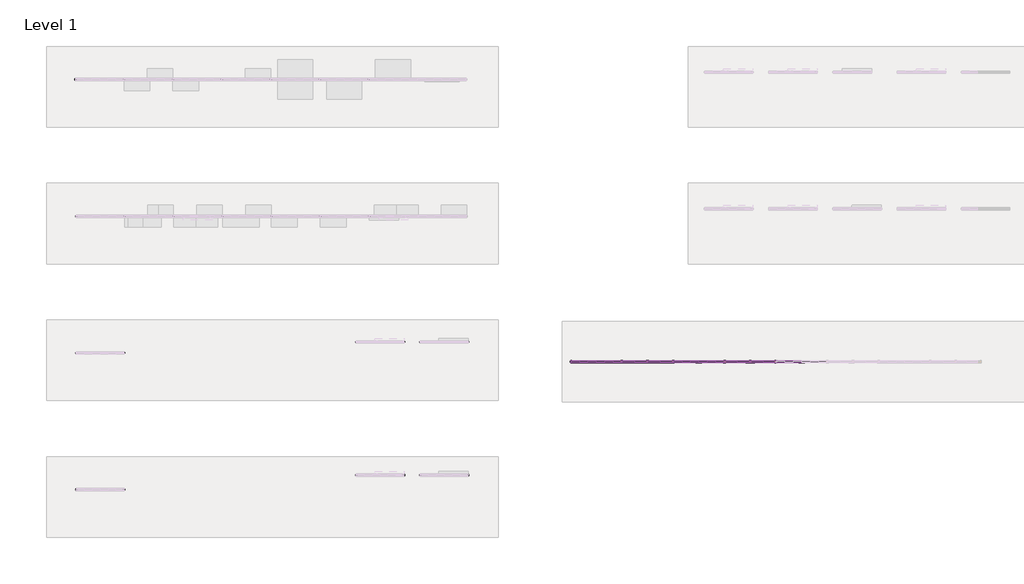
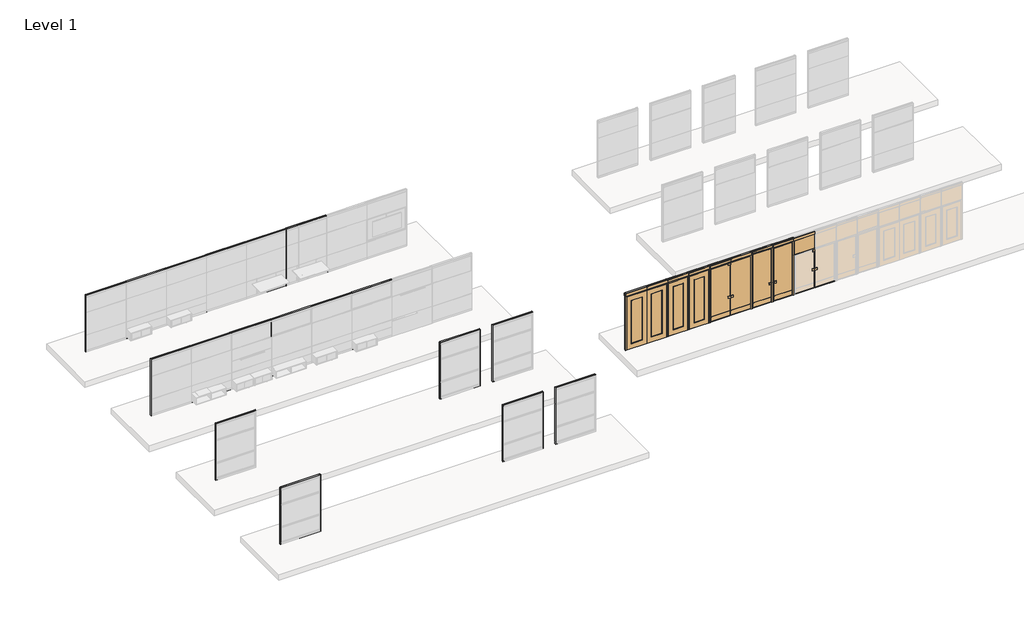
# One storey, part 1 of 13: 84 members, 39 doors.
"""IFC4 building model written with IfcOpenShell, lengths in millimetres."""

from ifc_helpers import new_model, si_unit, origin, place, context, project, spatial, transform, mapped, element, save
from components import door_bd91c697, fascia_door_teknion_ceiling_fpc_cee98132, fascia_door_teknion_ceiling_fpc_1744e75c, fascia_door_teknion_ceiling_fpc_80850e86, fascia_door_teknion_ceiling_fpc_62af43c9, fascia_door_teknion_ceiling_fpc_5a6df3e9, fascia_door_teknion_ceiling_fpc_77f6f4b8, fascia_door_teknion_ceiling_fpc_97e50246, fascia_door_teknion_ceiling_fpc_d2d9a834, fascia_door_teknion_glass_046dfec6, frame_door_teknion_full_height_double_649dfa20, frame_door_teknion_full_height_double_glass_6b4566d7, frame_door_teknion_horizontal_rail_67457fb7, frame_door_teknion_single_480e760c, frame_door_teknion_single_glass_8f8bf091, glass_door_08374f17, glass_door_056d267c, glass_double_door_e72a0660, panel_door_teknion_glass_insert_61912b7f, panel_door_teknion_glass_insert_d14ac338, panel_door_teknion_double_glass_insert_d8b20c53, panel_door_teknion_glass_glass_door_panel_5335f482, panel_door_teknion_glass_glass_door_panel_a58ef974, panel_door_teknion_glass_double_glass_double_door_panel_a0bbf17d, rectangular_mullion_3afcdd40, rectangular_mullion_f52d68d9, rectangular_mullion_044499e4, rectangular_mullion_8b23e5bd, rectangular_mullion_f0f61f1f, rectangular_mullion_7ac4b66f, rectangular_mullion_5de60da2, rectangular_mullion_eb75c081, rectangular_mullion_frame_teknion_landscape_vertical_post_05f5e206, rectangular_mullion_frame_teknion_landscape_vertical_post_5ea4eea9, rectangular_mullion_frame_teknion_landscape_vertical_post_1fa3a907

model = new_model("IFC4")

# Units and contexts
model_context = context("Model", 3, world=origin())
ifc_project = project(units=[si_unit("LENGTHUNIT", "METRE", prefix="MILLI")], contexts=[model_context])

# Site, building, storey
site = spatial("IfcSite", under=ifc_project)
building = spatial("IfcBuilding", under=site)
storey = spatial("IfcBuildingStorey", under=building, Name="Level 1", Elevation=0.0)

# Doors
placement = place(None, origin())
door_shape = door_bd91c697(model_context)
element("IfcDoor", 1, ObjectType="Door-Hinged_Glass_Segmented_Height-Teknion-Altos-Double : 84\", Double Glass Fascia", at=placement, inside=storey, context=model_context, shape_type="MappedRepresentation", body=[
    mapped(door_shape, transform((-15698.9760732, 10072.5705104, 3.175), x_axis=(1.0, 0.0, 0.0), y_axis=(0.0, 1.0, 0.0), z_axis=(0.0, 0.0, 1.0))),
])
fascia_door_teknion_ceiling_fpc_shape = fascia_door_teknion_ceiling_fpc_cee98132(model_context)
element("IfcDoor", 2, ObjectType="Fascia-Door-Teknion-Ceiling : FPC", at=placement, inside=storey, context=model_context, shape_type="MappedRepresentation", body=[
    mapped(fascia_door_teknion_ceiling_fpc_shape, transform((-18365.9760732, 10022.5336559, 2950.845), x_axis=(1.0, 0.0, 0.0), y_axis=(0.0, 1.0, 0.0), z_axis=(0.0, 0.0, 1.0))),
])
fascia_door_teknion_ceiling_fpc_2_shape = fascia_door_teknion_ceiling_fpc_1744e75c(model_context)
element("IfcDoor", 3, ObjectType="Fascia-Door-Teknion-Ceiling : FPC", at=placement, inside=storey, context=model_context, shape_type="MappedRepresentation", body=[
    mapped(fascia_door_teknion_ceiling_fpc_2_shape, transform((-18365.9760732, 10122.6096559, 2950.845), x_axis=(1.0, 0.0, 0.0), y_axis=(0.0, 1.0, 0.0), z_axis=(0.0, 0.0, 1.0))),
])
fascia_door_teknion_ceiling_fpc_3_shape = fascia_door_teknion_ceiling_fpc_80850e86(model_context)
element("IfcDoor", 4, ObjectType="Fascia-Door-Teknion-Ceiling : FPC", at=placement, inside=storey, context=model_context, shape_type="MappedRepresentation", body=[
    mapped(fascia_door_teknion_ceiling_fpc_3_shape, transform((-22633.1760732, 10022.5336559, 2900.045), x_axis=(1.0, 0.0, 0.0), y_axis=(0.0, 1.0, 0.0), z_axis=(0.0, 0.0, 1.0))),
])
element("IfcDoor", 5, ObjectType="Fascia-Door-Teknion-Ceiling : FPC", at=placement, inside=storey, context=model_context, shape_type="MappedRepresentation", body=[
    mapped(fascia_door_teknion_ceiling_fpc_3_shape, transform((-21566.3760732, 10021.7716559, 2900.045), x_axis=(1.0, 0.0, 0.0), y_axis=(0.0, 1.0, 0.0), z_axis=(0.0, 0.0, 1.0))),
])
element("IfcDoor", 6, ObjectType="Fascia-Door-Teknion-Ceiling : FPC", at=placement, inside=storey, context=model_context, shape_type="MappedRepresentation", body=[
    mapped(fascia_door_teknion_ceiling_fpc_3_shape, transform((-17299.1760732, 10022.5336559, 2900.045), x_axis=(1.0, 0.0, 0.0), y_axis=(0.0, 1.0, 0.0), z_axis=(0.0, 0.0, 1.0))),
])
fascia_door_teknion_ceiling_fpc_4_shape = fascia_door_teknion_ceiling_fpc_62af43c9(model_context)
element("IfcDoor", 7, ObjectType="Fascia-Door-Teknion-Ceiling : FPC", at=placement, inside=storey, context=model_context, shape_type="MappedRepresentation", body=[
    mapped(fascia_door_teknion_ceiling_fpc_4_shape, transform((-22633.1760732, 10122.6096559, 2900.045), x_axis=(1.0, 0.0, 0.0), y_axis=(0.0, 1.0, 0.0), z_axis=(0.0, 0.0, 1.0))),
])
element("IfcDoor", 8, ObjectType="Fascia-Door-Teknion-Ceiling : FPC", at=placement, inside=storey, context=model_context, shape_type="MappedRepresentation", body=[
    mapped(fascia_door_teknion_ceiling_fpc_4_shape, transform((-21566.3760732, 10123.3716559, 2900.045), x_axis=(1.0, 0.0, 0.0), y_axis=(0.0, 1.0, 0.0), z_axis=(0.0, 0.0, 1.0))),
])
element("IfcDoor", 9, ObjectType="Fascia-Door-Teknion-Ceiling : FPC", at=placement, inside=storey, context=model_context, shape_type="MappedRepresentation", body=[
    mapped(fascia_door_teknion_ceiling_fpc_4_shape, transform((-17299.1760732, 10122.6096559, 2900.045), x_axis=(1.0, 0.0, 0.0), y_axis=(0.0, 1.0, 0.0), z_axis=(0.0, 0.0, 1.0))),
])
fascia_door_teknion_ceiling_fpc_5_shape = fascia_door_teknion_ceiling_fpc_5a6df3e9(model_context)
element("IfcDoor", 10, ObjectType="Fascia-Door-Teknion-Ceiling : FPC", at=placement, inside=storey, context=model_context, shape_type="MappedRepresentation", body=[
    mapped(fascia_door_teknion_ceiling_fpc_5_shape, transform((-23689.1860341, 10122.6096559, 2900.045), x_axis=(1.0, 0.0, 0.0), y_axis=(0.0, 1.0, 0.0), z_axis=(0.0, 0.0, 1.0))),
])
element("IfcDoor", 11, ObjectType="Fascia-Door-Teknion-Ceiling : FPC", at=placement, inside=storey, context=model_context, shape_type="MappedRepresentation", body=[
    mapped(fascia_door_teknion_ceiling_fpc_5_shape, transform((-24763.5762685, 10122.6096559, 2900.045), x_axis=(1.0, 0.0, 0.0), y_axis=(0.0, 1.0, 0.0), z_axis=(0.0, 0.0, 1.0))),
])
fascia_door_teknion_ceiling_fpc_6_shape = fascia_door_teknion_ceiling_fpc_77f6f4b8(model_context)
element("IfcDoor", 12, ObjectType="Fascia-Door-Teknion-Ceiling : FPC", at=placement, inside=storey, context=model_context, shape_type="MappedRepresentation", body=[
    mapped(fascia_door_teknion_ceiling_fpc_6_shape, transform((-23689.1860341, 10022.5336559, 2900.045), x_axis=(1.0, 0.0, 0.0), y_axis=(0.0, 1.0, 0.0), z_axis=(0.0, 0.0, 1.0))),
])
element("IfcDoor", 13, ObjectType="Fascia-Door-Teknion-Ceiling : FPC", at=placement, inside=storey, context=model_context, shape_type="MappedRepresentation", body=[
    mapped(fascia_door_teknion_ceiling_fpc_6_shape, transform((-24763.5762685, 10022.5336559, 2900.045), x_axis=(1.0, 0.0, 0.0), y_axis=(0.0, 1.0, 0.0), z_axis=(0.0, 0.0, 1.0))),
])
fascia_door_teknion_ceiling_fpc_7_shape = fascia_door_teknion_ceiling_fpc_97e50246(model_context)
element("IfcDoor", 14, ObjectType="Fascia-Door-Teknion-Ceiling : FPC", at=placement, inside=storey, context=model_context, shape_type="MappedRepresentation", body=[
    mapped(fascia_door_teknion_ceiling_fpc_7_shape, transform((-19425.483495, 10122.6096559, 2900.045), x_axis=(1.0, 0.0, 0.0), y_axis=(0.0, 1.0, 0.0), z_axis=(0.0, 0.0, 1.0))),
])
element("IfcDoor", 15, ObjectType="Fascia-Door-Teknion-Ceiling : FPC", at=placement, inside=storey, context=model_context, shape_type="MappedRepresentation", body=[
    mapped(fascia_door_teknion_ceiling_fpc_7_shape, transform((-20506.8686513, 10122.6096559, 2900.045), x_axis=(1.0, 0.0, 0.0), y_axis=(0.0, 1.0, 0.0), z_axis=(0.0, 0.0, 1.0))),
])
element("IfcDoor", 16, ObjectType="Fascia-Door-Teknion-Ceiling : FPC", at=placement, inside=storey, context=model_context, shape_type="MappedRepresentation", body=[
    mapped(fascia_door_teknion_ceiling_fpc_7_shape, transform((-16239.6686513, 10123.3716559, 2900.045), x_axis=(1.0, 0.0, 0.0), y_axis=(0.0, 1.0, 0.0), z_axis=(0.0, 0.0, 1.0))),
])
fascia_door_teknion_ceiling_fpc_8_shape = fascia_door_teknion_ceiling_fpc_d2d9a834(model_context)
element("IfcDoor", 17, ObjectType="Fascia-Door-Teknion-Ceiling : FPC", at=placement, inside=storey, context=model_context, shape_type="MappedRepresentation", body=[
    mapped(fascia_door_teknion_ceiling_fpc_8_shape, transform((-19425.483495, 10022.5336559, 2900.045), x_axis=(1.0, 0.0, 0.0), y_axis=(0.0, 1.0, 0.0), z_axis=(0.0, 0.0, 1.0))),
])
element("IfcDoor", 18, ObjectType="Fascia-Door-Teknion-Ceiling : FPC", at=placement, inside=storey, context=model_context, shape_type="MappedRepresentation", body=[
    mapped(fascia_door_teknion_ceiling_fpc_8_shape, transform((-20506.8686513, 10022.5336559, 2900.045), x_axis=(1.0, 0.0, 0.0), y_axis=(0.0, 1.0, 0.0), z_axis=(0.0, 0.0, 1.0))),
])
element("IfcDoor", 19, ObjectType="Fascia-Door-Teknion-Ceiling : FPC", at=placement, inside=storey, context=model_context, shape_type="MappedRepresentation", body=[
    mapped(fascia_door_teknion_ceiling_fpc_8_shape, transform((-16239.6686513, 10021.7716559, 2900.045), x_axis=(1.0, 0.0, 0.0), y_axis=(0.0, 1.0, 0.0), z_axis=(0.0, 0.0, 1.0))),
])
fascia_door_teknion_glass_shape = fascia_door_teknion_glass_046dfec6(model_context)
element("IfcDoor", 20, ObjectType="Fascia-Door-Teknion-Glass : FPGD", at=placement, inside=storey, context=model_context, shape_type="MappedRepresentation", body=[
    mapped(fascia_door_teknion_glass_shape, transform((-16232.3811512, 10072.5716559, 2139.95), x_axis=(1.0, 0.0, 0.0), y_axis=(0.0, 1.0, 0.0), z_axis=(0.0, 0.0, 1.0))),
])
frame_door_teknion_full_height_double_shape = frame_door_teknion_full_height_double_649dfa20(model_context)
element("IfcDoor", 21, ObjectType="Frame-Door-Teknion-Full_Height_Double : FPFDS", at=placement, inside=storey, context=model_context, shape_type="MappedRepresentation", body=[
    mapped(frame_door_teknion_full_height_double_shape, transform((-24226.3811513, 10072.5716559, 3.175), x_axis=(1.0, 0.0, 0.0), y_axis=(0.0, 1.0, 0.0), z_axis=(0.0, 0.0, 1.0))),
])
frame_door_teknion_full_height_double_glass_shape = frame_door_teknion_full_height_double_glass_6b4566d7(model_context)
element("IfcDoor", 22, ObjectType="Frame-Door-Teknion-Full_Height_Double-Glass : FPFJS", at=placement, inside=storey, context=model_context, shape_type="MappedRepresentation", body=[
    mapped(frame_door_teknion_full_height_double_glass_shape, transform((-19966.1760732, 10072.5716559, 3.175), x_axis=(1.0, 0.0, 0.0), y_axis=(0.0, 1.0, 0.0), z_axis=(0.0, 0.0, 1.0))),
])
frame_door_teknion_horizontal_rail_shape = frame_door_teknion_horizontal_rail_67457fb7(model_context)
element("IfcDoor", 23, ObjectType="Frame-Door-Teknion-Horizontal_Rail : FPKK", at=placement, inside=storey, context=model_context, shape_type="MappedRepresentation", body=[
    mapped(frame_door_teknion_horizontal_rail_shape, transform((-22633.1760732, 10072.5716559, 2896.87), x_axis=(1.0, 0.0, 0.0), y_axis=(0.0, 1.0, 0.0), z_axis=(0.0, 0.0, 1.0))),
])
element("IfcDoor", 24, ObjectType="Frame-Door-Teknion-Horizontal_Rail : FPKK", at=placement, inside=storey, context=model_context, shape_type="MappedRepresentation", body=[
    mapped(frame_door_teknion_horizontal_rail_shape, transform((-21566.3760732, 10072.5716559, 2896.87), x_axis=(1.0, 0.0, 0.0), y_axis=(0.0, 1.0, 0.0), z_axis=(0.0, 0.0, 1.0))),
])
element("IfcDoor", 25, ObjectType="Frame-Door-Teknion-Horizontal_Rail : FPKK", at=placement, inside=storey, context=model_context, shape_type="MappedRepresentation", body=[
    mapped(frame_door_teknion_horizontal_rail_shape, transform((-18365.9760732, 10072.5716559, 2947.67), x_axis=(1.0, 0.0, 0.0), y_axis=(0.0, 1.0, 0.0), z_axis=(0.0, 0.0, 1.0))),
])
element("IfcDoor", 26, ObjectType="Frame-Door-Teknion-Horizontal_Rail : FPKK", at=placement, inside=storey, context=model_context, shape_type="MappedRepresentation", body=[
    mapped(frame_door_teknion_horizontal_rail_shape, transform((-17299.1760732, 10072.5716559, 2896.87), x_axis=(1.0, 0.0, 0.0), y_axis=(0.0, 1.0, 0.0), z_axis=(0.0, 0.0, 1.0))),
])
frame_door_teknion_single_shape = frame_door_teknion_single_480e760c(model_context)
element("IfcDoor", 27, ObjectType="Frame-Door-Teknion-Single : FPFHS", at=placement, inside=storey, context=model_context, shape_type="MappedRepresentation", body=[
    mapped(frame_door_teknion_single_shape, transform((-22633.1760732, 10072.5716559, 3.175), x_axis=(1.0, 0.0, 0.0), y_axis=(0.0, 1.0, 0.0), z_axis=(0.0, 0.0, 1.0))),
])
element("IfcDoor", 28, ObjectType="Frame-Door-Teknion-Single : FPFHS", at=placement, inside=storey, context=model_context, shape_type="MappedRepresentation", body=[
    mapped(frame_door_teknion_single_shape, transform((-21566.3760732, 10072.5716559, 3.175), x_axis=(1.0, 0.0, 0.0), y_axis=(0.0, 1.0, 0.0), z_axis=(0.0, 0.0, 1.0))),
])
frame_door_teknion_single_glass_shape = frame_door_teknion_single_glass_8f8bf091(model_context)
element("IfcDoor", 29, ObjectType="Frame-Door-Teknion-Single-Glass : FPFJS", at=placement, inside=storey, context=model_context, shape_type="MappedRepresentation", body=[
    mapped(frame_door_teknion_single_glass_shape, transform((-18365.9760732, 10072.5716559, 3.175), x_axis=(1.0, 0.0, 0.0), y_axis=(0.0, 1.0, 0.0), z_axis=(0.0, 0.0, 1.0))),
])
element("IfcDoor", 30, ObjectType="Frame-Door-Teknion-Single-Glass : FPFJS", at=placement, inside=storey, context=model_context, shape_type="MappedRepresentation", body=[
    mapped(frame_door_teknion_single_shape, transform((-17299.1760732, 10072.5716559, 3.175), x_axis=(1.0, 0.0, 0.0), y_axis=(0.0, 1.0, 0.0), z_axis=(0.0, 0.0, 1.0))),
])
glass_door_shape = glass_door_08374f17(model_context)
element("IfcDoor", 31, ObjectType="Door-Hinged_Glass_Full_Height-Teknion-Altos-Left_Swing : Glass Door", at=placement, inside=storey, context=model_context, shape_type="MappedRepresentation", body=[
    mapped(glass_door_shape, transform((-18365.9760732, 10072.5705104, 3.175), x_axis=(1.0, 0.0, 0.0), y_axis=(0.0, 1.0, 0.0), z_axis=(0.0, 0.0, 1.0))),
])
glass_door_2_shape = glass_door_056d267c(model_context)
element("IfcDoor", 32, ObjectType="Door-Hinged_Glass_Full_Height-Teknion-Altos-Right_Swing : Glass Door", at=placement, inside=storey, context=model_context, shape_type="MappedRepresentation", body=[
    mapped(glass_door_2_shape, transform((-17299.1760732, 10072.5705104, 3.175), x_axis=(1.0, 0.0, 0.0), y_axis=(0.0, 1.0, 0.0), z_axis=(0.0, 0.0, 1.0))),
])
glass_double_door_shape = glass_double_door_e72a0660(model_context)
element("IfcDoor", 33, ObjectType="Door-Hinged_Glass_Full_Height-Teknion-Altos-Double : Glass Double Door", at=placement, inside=storey, context=model_context, shape_type="MappedRepresentation", body=[
    mapped(glass_double_door_shape, transform((-19966.1760732, 10072.5705104, 3.175), x_axis=(1.0, 0.0, 0.0), y_axis=(0.0, 1.0, 0.0), z_axis=(0.0, 0.0, 1.0))),
])
panel_door_teknion_glass_insert_shape = panel_door_teknion_glass_insert_61912b7f(model_context)
element("IfcDoor", 34, ObjectType="Panel-Door-Teknion : Glass Insert", at=placement, inside=storey, context=model_context, shape_type="MappedRepresentation", body=[
    mapped(panel_door_teknion_glass_insert_shape, transform((-22634.1186735, 10044.7586559, 3.175), x_axis=(1.0, 0.0, 0.0), y_axis=(0.0, 1.0, 0.0), z_axis=(0.0, 0.0, 1.0))),
])
panel_door_teknion_glass_insert_2_shape = panel_door_teknion_glass_insert_d14ac338(model_context)
element("IfcDoor", 35, ObjectType="Panel-Door-Teknion : Glass Insert", at=placement, inside=storey, context=model_context, shape_type="MappedRepresentation", body=[
    mapped(panel_door_teknion_glass_insert_2_shape, transform((-21565.3600732, 10043.9966559, 3.175), x_axis=(-1.0, 0.0, 0.0), y_axis=(0.0, -1.0, 0.0), z_axis=(0.0, 0.0, 1.0))),
])
panel_door_teknion_double_glass_insert_shape = panel_door_teknion_double_glass_insert_d8b20c53(model_context)
element("IfcDoor", 36, ObjectType="Panel-Door-Teknion-Double : Glass Insert", at=placement, inside=storey, context=model_context, shape_type="MappedRepresentation", body=[
    mapped(panel_door_teknion_double_glass_insert_shape, transform((-24717.2262516, 10044.7586559, 3.175), x_axis=(1.0, 0.0, 0.0), y_axis=(0.0, 1.0, 0.0), z_axis=(0.0, 0.0, 1.0))),
])
panel_door_teknion_glass_glass_door_panel_shape = panel_door_teknion_glass_glass_door_panel_5335f482(model_context)
element("IfcDoor", 37, ObjectType="Panel-Door-Teknion-Glass : Glass Door Panel", at=placement, inside=storey, context=model_context, shape_type="MappedRepresentation", body=[
    mapped(panel_door_teknion_glass_glass_door_panel_shape, transform((-18365.4868003, 10065.4499211, 3.175), x_axis=(1.0, 0.0, 0.0), y_axis=(0.0, 1.0, 0.0), z_axis=(0.0, 0.0, 1.0))),
])
panel_door_teknion_glass_glass_door_panel_2_shape = panel_door_teknion_glass_glass_door_panel_a58ef974(model_context)
element("IfcDoor", 38, ObjectType="Panel-Door-Teknion-Glass : Glass Door Panel", at=placement, inside=storey, context=model_context, shape_type="MappedRepresentation", body=[
    mapped(panel_door_teknion_glass_glass_door_panel_2_shape, transform((-17299.6713732, 10065.4499211, 3.175), x_axis=(-1.0, 0.0, 0.0), y_axis=(0.0, -1.0, 0.0), z_axis=(0.0, 0.0, 1.0))),
])
panel_door_teknion_glass_double_glass_double_door_panel_shape = panel_door_teknion_glass_double_glass_double_door_panel_a0bbf17d(model_context)
element("IfcDoor", 39, ObjectType="Panel-Door-Teknion-Glass-Double : Glass Double Door Panel", at=placement, inside=storey, context=model_context, shape_type="MappedRepresentation", body=[
    mapped(panel_door_teknion_glass_double_glass_double_door_panel_shape, transform((-19991.5760732, 10065.4469559, 3.175), x_axis=(1.0, 0.0, 0.0), y_axis=(0.0, 1.0, 0.0), z_axis=(0.0, 0.0, 1.0))),
])

# Members
rectangular_mullion_shape = rectangular_mullion_3afcdd40(model_context)
element("IfcMember", 40, ObjectType="Rectangular Mullion : Frame-Teknion-Altos-Base_Channel", at=placement, inside=storey, context=model_context, shape_type="MappedRepresentation", body=[
    mapped(rectangular_mullion_shape, transform((-23152.5862294, 10072.5705104, 0.0), x_axis=(0.0, 0.0, -1.0), y_axis=(0.0, -1.0, 0.0), z_axis=(-1.0, 0.0, 0.0))),
])
element("IfcMember", 41, ObjectType="Rectangular Mullion : Frame-Teknion-Altos-Base_Channel", at=placement, inside=storey, context=model_context, shape_type="MappedRepresentation", body=[
    mapped(rectangular_mullion_shape, transform((-22085.7862294, 10072.5705104, 0.0), x_axis=(0.0, 0.0, -1.0), y_axis=(0.0, -1.0, 0.0), z_axis=(-1.0, 0.0, 0.0))),
])
element("IfcMember", 42, ObjectType="Rectangular Mullion : Frame-Teknion-Altos-Base_Channel", at=placement, inside=storey, context=model_context, shape_type="MappedRepresentation", body=[
    mapped(rectangular_mullion_shape, transform((-18885.3862294, 10072.5705104, 0.0), x_axis=(0.0, 0.0, -1.0), y_axis=(0.0, -1.0, 0.0), z_axis=(-1.0, 0.0, 0.0))),
])
element("IfcMember", 43, ObjectType="Rectangular Mullion : Frame-Teknion-Altos-Base_Channel", at=placement, inside=storey, context=model_context, shape_type="MappedRepresentation", body=[
    mapped(rectangular_mullion_shape, transform((-17818.5862294, 10072.5705104, 0.0), x_axis=(0.0, 0.0, -1.0), y_axis=(0.0, -1.0, 0.0), z_axis=(-1.0, 0.0, 0.0))),
])
element("IfcMember", 44, ObjectType="Rectangular Mullion : Frame-Teknion-Altos-Ceiling_Channel", at=placement, inside=storey, context=model_context, shape_type="MappedRepresentation", body=[
    mapped(rectangular_mullion_shape, transform((-22113.7659169, 10072.5705104, 3048.0), x_axis=(0.0, 0.0, 1.0), y_axis=(0.0, -1.0, 0.0), z_axis=(1.0, 0.0, 0.0))),
])
element("IfcMember", 45, ObjectType="Rectangular Mullion : Frame-Teknion-Altos-Ceiling_Channel", at=placement, inside=storey, context=model_context, shape_type="MappedRepresentation", body=[
    mapped(rectangular_mullion_shape, transform((-21046.9659169, 10072.5705104, 3048.0), x_axis=(0.0, 0.0, 1.0), y_axis=(0.0, -1.0, 0.0), z_axis=(1.0, 0.0, 0.0))),
])
element("IfcMember", 46, ObjectType="Rectangular Mullion : Frame-Teknion-Altos-Ceiling_Channel", at=placement, inside=storey, context=model_context, shape_type="MappedRepresentation", body=[
    mapped(rectangular_mullion_shape, transform((-17846.5659169, 10072.5705104, 3048.0), x_axis=(0.0, 0.0, 1.0), y_axis=(0.0, -1.0, 0.0), z_axis=(1.0, 0.0, 0.0))),
])
element("IfcMember", 47, ObjectType="Rectangular Mullion : Frame-Teknion-Altos-Ceiling_Channel", at=placement, inside=storey, context=model_context, shape_type="MappedRepresentation", body=[
    mapped(rectangular_mullion_shape, transform((-16779.7659169, 10072.5705104, 3048.0), x_axis=(0.0, 0.0, 1.0), y_axis=(0.0, -1.0, 0.0), z_axis=(1.0, 0.0, 0.0))),
])
rectangular_mullion_2_shape = rectangular_mullion_f52d68d9(model_context)
element("IfcMember", 48, ObjectType="Rectangular Mullion : Frame-Teknion-Altos-Ceiling_Channel", at=placement, inside=storey, context=model_context, shape_type="MappedRepresentation", body=[
    mapped(rectangular_mullion_2_shape, transform((-23180.5659169, 10072.5705104, 3048.0), x_axis=(0.0, 0.0, 1.0), y_axis=(0.0, -1.0, 0.0), z_axis=(1.0, 0.0, 0.0))),
])
rectangular_mullion_3_shape = rectangular_mullion_044499e4(model_context)
element("IfcMember", 49, ObjectType="Rectangular Mullion : Frame-Teknion-Altos-Ceiling_Channel", at=placement, inside=storey, context=model_context, shape_type="MappedRepresentation", body=[
    mapped(rectangular_mullion_3_shape, transform((-18913.3659169, 10072.5705104, 3048.0), x_axis=(0.0, 0.0, 1.0), y_axis=(0.0, -1.0, 0.0), z_axis=(1.0, 0.0, 0.0))),
])
rectangular_mullion_4_shape = rectangular_mullion_8b23e5bd(model_context)
element("IfcMember", 50, ObjectType="Rectangular Mullion : Frame-Teknion-Altos-Base_Channel", at=placement, inside=storey, context=model_context, shape_type="MappedRepresentation", body=[
    mapped(rectangular_mullion_4_shape, transform((-25272.1963857, 10072.5705104, 0.0), x_axis=(0.0, 0.0, -1.0), y_axis=(0.0, -1.0, 0.0), z_axis=(-1.0, 0.0, 0.0))),
])
element("IfcMember", 51, ObjectType="Rectangular Mullion : Frame-Teknion-Altos-Base_Channel", at=placement, inside=storey, context=model_context, shape_type="MappedRepresentation", body=[
    mapped(rectangular_mullion_3_shape, transform((-21018.9862294, 10072.5705104, 0.0), x_axis=(0.0, 0.0, -1.0), y_axis=(0.0, -1.0, 0.0), z_axis=(-1.0, 0.0, 0.0))),
])
element("IfcMember", 52, ObjectType="Rectangular Mullion : Frame-Teknion-Altos-Base_Channel", at=placement, inside=storey, context=model_context, shape_type="MappedRepresentation", body=[
    mapped(rectangular_mullion_3_shape, transform((-16751.7862294, 10072.5705104, 0.0), x_axis=(0.0, 0.0, -1.0), y_axis=(0.0, -1.0, 0.0), z_axis=(-1.0, 0.0, 0.0))),
])
rectangular_mullion_5_shape = rectangular_mullion_f0f61f1f(model_context)
element("IfcMember", 53, ObjectType="Rectangular Mullion : Frame-Teknion-Altos-Ceiling_Channel", at=placement, inside=storey, context=model_context, shape_type="MappedRepresentation", body=[
    mapped(rectangular_mullion_5_shape, transform((-43840.4866147, 10439.2043277, 3048.0), x_axis=(0.0, 0.0, 1.0), y_axis=(0.0, -1.0, 0.0), z_axis=(1.0, 0.0, 0.0))),
])
element("IfcMember", 54, ObjectType="Rectangular Mullion : Frame-Teknion-Altos-Ceiling_Channel", at=placement, inside=storey, context=model_context, shape_type="MappedRepresentation", body=[
    mapped(rectangular_mullion_5_shape, transform((-43840.4866147, 4757.4783277, 3048.0), x_axis=(0.0, 0.0, 1.0), y_axis=(0.0, -1.0, 0.0), z_axis=(1.0, 0.0, 0.0))),
])
element("IfcMember", 55, ObjectType="Rectangular Mullion : Frame-Teknion-Altos-Ceiling_Channel", at=placement, inside=storey, context=model_context, shape_type="MappedRepresentation", body=[
    mapped(rectangular_mullion_5_shape, transform((-32216.145849, 10896.4043277, 3048.0), x_axis=(0.0, 0.0, 1.0), y_axis=(0.0, -1.0, 0.0), z_axis=(1.0, 0.0, 0.0))),
])
element("IfcMember", 56, ObjectType="Rectangular Mullion : Frame-Teknion-Altos-Ceiling_Channel", at=placement, inside=storey, context=model_context, shape_type="MappedRepresentation", body=[
    mapped(rectangular_mullion_5_shape, transform((-29549.145849, 10896.4043277, 3048.0), x_axis=(0.0, 0.0, 1.0), y_axis=(0.0, -1.0, 0.0), z_axis=(1.0, 0.0, 0.0))),
])
element("IfcMember", 57, ObjectType="Rectangular Mullion : Frame-Teknion-Altos-Ceiling_Channel", at=placement, inside=storey, context=model_context, shape_type="MappedRepresentation", body=[
    mapped(rectangular_mullion_5_shape, transform((-32216.145849, 5367.0783277, 3048.0), x_axis=(0.0, 0.0, 1.0), y_axis=(0.0, -1.0, 0.0), z_axis=(1.0, 0.0, 0.0))),
])
element("IfcMember", 58, ObjectType="Rectangular Mullion : Frame-Teknion-Altos-Ceiling_Channel", at=placement, inside=storey, context=model_context, shape_type="MappedRepresentation", body=[
    mapped(rectangular_mullion_5_shape, transform((-29549.145849, 5367.0783277, 3048.0), x_axis=(0.0, 0.0, 1.0), y_axis=(0.0, -1.0, 0.0), z_axis=(1.0, 0.0, 0.0))),
])
element("IfcMember", 59, ObjectType="Rectangular Mullion : Frame-Teknion-Altos-Base_Channel", at=placement, inside=storey, context=model_context, shape_type="MappedRepresentation", body=[
    mapped(rectangular_mullion_5_shape, transform((-45816.5272397, 10439.2043277, 0.0), x_axis=(0.0, 0.0, -1.0), y_axis=(0.0, -1.0, 0.0), z_axis=(-1.0, 0.0, 0.0))),
])
element("IfcMember", 60, ObjectType="Rectangular Mullion : Frame-Teknion-Altos-Base_Channel", at=placement, inside=storey, context=model_context, shape_type="MappedRepresentation", body=[
    mapped(rectangular_mullion_5_shape, transform((-45816.5272397, 4757.4783277, 0.0), x_axis=(0.0, 0.0, -1.0), y_axis=(0.0, -1.0, 0.0), z_axis=(-1.0, 0.0, 0.0))),
])
element("IfcMember", 61, ObjectType="Rectangular Mullion : Frame-Teknion-Altos-Base_Channel", at=placement, inside=storey, context=model_context, shape_type="MappedRepresentation", body=[
    mapped(rectangular_mullion_5_shape, transform((-34192.186474, 10896.4043277, 0.0), x_axis=(0.0, 0.0, -1.0), y_axis=(0.0, -1.0, 0.0), z_axis=(-1.0, 0.0, 0.0))),
])
element("IfcMember", 62, ObjectType="Rectangular Mullion : Frame-Teknion-Altos-Base_Channel", at=placement, inside=storey, context=model_context, shape_type="MappedRepresentation", body=[
    mapped(rectangular_mullion_5_shape, transform((-31525.186474, 10896.4043277, 0.0), x_axis=(0.0, 0.0, -1.0), y_axis=(0.0, -1.0, 0.0), z_axis=(-1.0, 0.0, 0.0))),
])
element("IfcMember", 63, ObjectType="Rectangular Mullion : Frame-Teknion-Altos-Base_Channel", at=placement, inside=storey, context=model_context, shape_type="MappedRepresentation", body=[
    mapped(rectangular_mullion_5_shape, transform((-34192.186474, 5367.0783277, 0.0), x_axis=(0.0, 0.0, -1.0), y_axis=(0.0, -1.0, 0.0), z_axis=(-1.0, 0.0, 0.0))),
])
element("IfcMember", 64, ObjectType="Rectangular Mullion : Frame-Teknion-Altos-Base_Channel", at=placement, inside=storey, context=model_context, shape_type="MappedRepresentation", body=[
    mapped(rectangular_mullion_5_shape, transform((-31525.186474, 5367.0783277, 0.0), x_axis=(0.0, 0.0, -1.0), y_axis=(0.0, -1.0, 0.0), z_axis=(-1.0, 0.0, 0.0))),
])
rectangular_mullion_6_shape = rectangular_mullion_7ac4b66f(model_context)
element("IfcMember", 65, ObjectType="Rectangular Mullion : Frame-Teknion-Altos-Base_Channel", at=placement, inside=storey, context=model_context, shape_type="MappedRepresentation", body=[
    mapped(rectangular_mullion_6_shape, transform((-45841.9272397, 21802.4569796, 0.0), x_axis=(0.0, 0.0, -1.0), y_axis=(0.0, -1.0, 0.0), z_axis=(-1.0, 0.0, 0.0))),
])
element("IfcMember", 66, ObjectType="Rectangular Mullion : Frame-Teknion-Altos-Base_Channel", at=placement, inside=storey, context=model_context, shape_type="MappedRepresentation", body=[
    mapped(rectangular_mullion_6_shape, transform((-45816.5272397, 16120.7309796, 0.0), x_axis=(0.0, 0.0, -1.0), y_axis=(0.0, -1.0, 0.0), z_axis=(-1.0, 0.0, 0.0))),
])
rectangular_mullion_7_shape = rectangular_mullion_5de60da2(model_context)
element("IfcMember", 67, ObjectType="Rectangular Mullion : Frame-Teknion-Altos-Ceiling_Channel", at=placement, inside=storey, context=model_context, shape_type="MappedRepresentation", body=[
    mapped(rectangular_mullion_7_shape, transform((-43851.8967709, 21802.4569796, 3048.0), x_axis=(0.0, 0.0, 1.0), y_axis=(0.0, -1.0, 0.0), z_axis=(1.0, 0.0, 0.0))),
])
element("IfcMember", 68, ObjectType="Rectangular Mullion : Frame-Teknion-Altos-Ceiling_Channel", at=placement, inside=storey, context=model_context, shape_type="MappedRepresentation", body=[
    mapped(rectangular_mullion_7_shape, transform((-43826.4967709, 16120.7309796, 3048.0), x_axis=(0.0, 0.0, 1.0), y_axis=(0.0, -1.0, 0.0), z_axis=(1.0, 0.0, 0.0))),
])
rectangular_mullion_8_shape = rectangular_mullion_eb75c081(model_context)
element("IfcMember", 69, ObjectType="Rectangular Mullion : Frame-Teknion-Altos-Ceiling_Channel", at=placement, inside=storey, context=model_context, shape_type="MappedRepresentation", body=[
    mapped(rectangular_mullion_8_shape, transform((-41819.8967709, 21802.4569796, 3048.0), x_axis=(0.0, 0.0, 1.0), y_axis=(0.0, -1.0, 0.0), z_axis=(1.0, 0.0, 0.0))),
])
element("IfcMember", 70, ObjectType="Rectangular Mullion : Frame-Teknion-Altos-Ceiling_Channel", at=placement, inside=storey, context=model_context, shape_type="MappedRepresentation", body=[
    mapped(rectangular_mullion_8_shape, transform((-39787.8967709, 21802.4569796, 3048.0), x_axis=(0.0, 0.0, 1.0), y_axis=(0.0, -1.0, 0.0), z_axis=(1.0, 0.0, 0.0))),
])
element("IfcMember", 71, ObjectType="Rectangular Mullion : Frame-Teknion-Altos-Ceiling_Channel", at=placement, inside=storey, context=model_context, shape_type="MappedRepresentation", body=[
    mapped(rectangular_mullion_8_shape, transform((-37755.8967709, 21802.4569796, 3048.0), x_axis=(0.0, 0.0, 1.0), y_axis=(0.0, -1.0, 0.0), z_axis=(1.0, 0.0, 0.0))),
])
element("IfcMember", 72, ObjectType="Rectangular Mullion : Frame-Teknion-Altos-Ceiling_Channel", at=placement, inside=storey, context=model_context, shape_type="MappedRepresentation", body=[
    mapped(rectangular_mullion_8_shape, transform((-41794.4967709, 16120.7309796, 3048.0), x_axis=(0.0, 0.0, 1.0), y_axis=(0.0, -1.0, 0.0), z_axis=(1.0, 0.0, 0.0))),
])
element("IfcMember", 73, ObjectType="Rectangular Mullion : Frame-Teknion-Altos-Ceiling_Channel", at=placement, inside=storey, context=model_context, shape_type="MappedRepresentation", body=[
    mapped(rectangular_mullion_8_shape, transform((-37730.4967709, 16120.7309796, 3048.0), x_axis=(0.0, 0.0, 1.0), y_axis=(0.0, -1.0, 0.0), z_axis=(1.0, 0.0, 0.0))),
])
element("IfcMember", 74, ObjectType="Rectangular Mullion : Frame-Teknion-Altos-Ceiling_Channel", at=placement, inside=storey, context=model_context, shape_type="MappedRepresentation", body=[
    mapped(rectangular_mullion_8_shape, transform((-35698.4967709, 16120.7309796, 3048.0), x_axis=(0.0, 0.0, 1.0), y_axis=(0.0, -1.0, 0.0), z_axis=(1.0, 0.0, 0.0))),
])
element("IfcMember", 75, ObjectType="Rectangular Mullion : Frame-Teknion-Altos-Ceiling_Channel", at=placement, inside=storey, context=model_context, shape_type="MappedRepresentation", body=[
    mapped(rectangular_mullion_8_shape, transform((-33666.4967709, 16120.7309796, 3048.0), x_axis=(0.0, 0.0, 1.0), y_axis=(0.0, -1.0, 0.0), z_axis=(1.0, 0.0, 0.0))),
])
element("IfcMember", 76, ObjectType="Rectangular Mullion : Frame-Teknion-Altos-Ceiling_Channel", at=placement, inside=storey, context=model_context, shape_type="MappedRepresentation", body=[
    mapped(rectangular_mullion_8_shape, transform((-35723.8967709, 21802.4569796, 3048.0), x_axis=(0.0, 0.0, 1.0), y_axis=(0.0, -1.0, 0.0), z_axis=(1.0, 0.0, 0.0))),
])
element("IfcMember", 77, ObjectType="Rectangular Mullion : Frame-Teknion-Altos-Ceiling_Channel", at=placement, inside=storey, context=model_context, shape_type="MappedRepresentation", body=[
    mapped(rectangular_mullion_8_shape, transform((-33691.8967709, 21802.4569796, 3048.0), x_axis=(0.0, 0.0, 1.0), y_axis=(0.0, -1.0, 0.0), z_axis=(1.0, 0.0, 0.0))),
])
element("IfcMember", 78, ObjectType="Rectangular Mullion : Frame-Teknion-Altos-Ceiling_Channel", at=placement, inside=storey, context=model_context, shape_type="MappedRepresentation", body=[
    mapped(rectangular_mullion_8_shape, transform((-39762.4967709, 16120.7309796, 3048.0), x_axis=(0.0, 0.0, 1.0), y_axis=(0.0, -1.0, 0.0), z_axis=(1.0, 0.0, 0.0))),
])
element("IfcMember", 79, ObjectType="Rectangular Mullion : Frame-Teknion-Altos-Base_Channel", at=placement, inside=storey, context=model_context, shape_type="MappedRepresentation", body=[
    mapped(rectangular_mullion_8_shape, transform((-43823.9170834, 21802.4569796, 0.0), x_axis=(0.0, 0.0, -1.0), y_axis=(0.0, -1.0, 0.0), z_axis=(-1.0, 0.0, 0.0))),
])
element("IfcMember", 80, ObjectType="Rectangular Mullion : Frame-Teknion-Altos-Base_Channel", at=placement, inside=storey, context=model_context, shape_type="MappedRepresentation", body=[
    mapped(rectangular_mullion_8_shape, transform((-41791.9170834, 21802.4569796, 0.0), x_axis=(0.0, 0.0, -1.0), y_axis=(0.0, -1.0, 0.0), z_axis=(-1.0, 0.0, 0.0))),
])
element("IfcMember", 81, ObjectType="Rectangular Mullion : Frame-Teknion-Altos-Base_Channel", at=placement, inside=storey, context=model_context, shape_type="MappedRepresentation", body=[
    mapped(rectangular_mullion_8_shape, transform((-39759.9170834, 21802.4569796, 0.0), x_axis=(0.0, 0.0, -1.0), y_axis=(0.0, -1.0, 0.0), z_axis=(-1.0, 0.0, 0.0))),
])
element("IfcMember", 82, ObjectType="Rectangular Mullion : Frame-Teknion-Altos-Base_Channel", at=placement, inside=storey, context=model_context, shape_type="MappedRepresentation", body=[
    mapped(rectangular_mullion_8_shape, transform((-37727.9170834, 21802.4569796, 0.0), x_axis=(0.0, 0.0, -1.0), y_axis=(0.0, -1.0, 0.0), z_axis=(-1.0, 0.0, 0.0))),
])
element("IfcMember", 83, ObjectType="Rectangular Mullion : Frame-Teknion-Altos-Base_Channel", at=placement, inside=storey, context=model_context, shape_type="MappedRepresentation", body=[
    mapped(rectangular_mullion_8_shape, transform((-43798.5170834, 16120.7309796, 0.0), x_axis=(0.0, 0.0, -1.0), y_axis=(0.0, -1.0, 0.0), z_axis=(-1.0, 0.0, 0.0))),
])
element("IfcMember", 84, ObjectType="Rectangular Mullion : Frame-Teknion-Altos-Base_Channel", at=placement, inside=storey, context=model_context, shape_type="MappedRepresentation", body=[
    mapped(rectangular_mullion_8_shape, transform((-41766.5170834, 16120.7309796, 0.0), x_axis=(0.0, 0.0, -1.0), y_axis=(0.0, -1.0, 0.0), z_axis=(-1.0, 0.0, 0.0))),
])
element("IfcMember", 85, ObjectType="Rectangular Mullion : Frame-Teknion-Altos-Base_Channel", at=placement, inside=storey, context=model_context, shape_type="MappedRepresentation", body=[
    mapped(rectangular_mullion_8_shape, transform((-37702.5170834, 16120.7309796, 0.0), x_axis=(0.0, 0.0, -1.0), y_axis=(0.0, -1.0, 0.0), z_axis=(-1.0, 0.0, 0.0))),
])
element("IfcMember", 86, ObjectType="Rectangular Mullion : Frame-Teknion-Altos-Base_Channel", at=placement, inside=storey, context=model_context, shape_type="MappedRepresentation", body=[
    mapped(rectangular_mullion_8_shape, transform((-35670.5170834, 16120.7309796, 0.0), x_axis=(0.0, 0.0, -1.0), y_axis=(0.0, -1.0, 0.0), z_axis=(-1.0, 0.0, 0.0))),
])
element("IfcMember", 87, ObjectType="Rectangular Mullion : Frame-Teknion-Altos-Base_Channel", at=placement, inside=storey, context=model_context, shape_type="MappedRepresentation", body=[
    mapped(rectangular_mullion_8_shape, transform((-33638.5170834, 16120.7309796, 0.0), x_axis=(0.0, 0.0, -1.0), y_axis=(0.0, -1.0, 0.0), z_axis=(-1.0, 0.0, 0.0))),
])
element("IfcMember", 88, ObjectType="Rectangular Mullion : Frame-Teknion-Altos-Base_Channel", at=placement, inside=storey, context=model_context, shape_type="MappedRepresentation", body=[
    mapped(rectangular_mullion_8_shape, transform((-35695.9170834, 21802.4569796, 0.0), x_axis=(0.0, 0.0, -1.0), y_axis=(0.0, -1.0, 0.0), z_axis=(-1.0, 0.0, 0.0))),
])
element("IfcMember", 89, ObjectType="Rectangular Mullion : Frame-Teknion-Altos-Base_Channel", at=placement, inside=storey, context=model_context, shape_type="MappedRepresentation", body=[
    mapped(rectangular_mullion_8_shape, transform((-33663.9170834, 21802.4569796, 0.0), x_axis=(0.0, 0.0, -1.0), y_axis=(0.0, -1.0, 0.0), z_axis=(-1.0, 0.0, 0.0))),
])
element("IfcMember", 90, ObjectType="Rectangular Mullion : Frame-Teknion-Altos-Base_Channel", at=placement, inside=storey, context=model_context, shape_type="MappedRepresentation", body=[
    mapped(rectangular_mullion_8_shape, transform((-39734.5170834, 16120.7309796, 0.0), x_axis=(0.0, 0.0, -1.0), y_axis=(0.0, -1.0, 0.0), z_axis=(-1.0, 0.0, 0.0))),
])
rectangular_mullion_frame_teknion_landscape_vertical_post_shape = rectangular_mullion_frame_teknion_landscape_vertical_post_05f5e206(model_context)
element("IfcMember", 91, ObjectType="Rectangular Mullion : Frame-Teknion-Landscape_Vertical_Post", at=placement, inside=storey, context=model_context, shape_type="MappedRepresentation", body=[
    mapped(rectangular_mullion_frame_teknion_landscape_vertical_post_shape, transform((-43837.9069272, 21802.4569796, 0.0), x_axis=(1.0, 0.0, 0.0), y_axis=(0.0, -1.0, 0.0), z_axis=(0.0, 0.0, -1.0))),
])
element("IfcMember", 92, ObjectType="Rectangular Mullion : Frame-Teknion-Landscape_Vertical_Post", at=placement, inside=storey, context=model_context, shape_type="MappedRepresentation", body=[
    mapped(rectangular_mullion_frame_teknion_landscape_vertical_post_shape, transform((-41805.9069272, 21802.4569796, 0.0), x_axis=(1.0, 0.0, 0.0), y_axis=(0.0, -1.0, 0.0), z_axis=(0.0, 0.0, -1.0))),
])
element("IfcMember", 93, ObjectType="Rectangular Mullion : Frame-Teknion-Landscape_Vertical_Post", at=placement, inside=storey, context=model_context, shape_type="MappedRepresentation", body=[
    mapped(rectangular_mullion_frame_teknion_landscape_vertical_post_shape, transform((-39773.9069272, 21802.4569796, 0.0), x_axis=(1.0, 0.0, 0.0), y_axis=(0.0, -1.0, 0.0), z_axis=(0.0, 0.0, -1.0))),
])
element("IfcMember", 94, ObjectType="Rectangular Mullion : Frame-Teknion-Landscape_Vertical_Post", at=placement, inside=storey, context=model_context, shape_type="MappedRepresentation", body=[
    mapped(rectangular_mullion_frame_teknion_landscape_vertical_post_shape, transform((-37741.9069272, 21802.4569796, 0.0), x_axis=(1.0, 0.0, 0.0), y_axis=(0.0, -1.0, 0.0), z_axis=(0.0, 0.0, -1.0))),
])
element("IfcMember", 95, ObjectType="Rectangular Mullion : Frame-Teknion-Landscape_Vertical_Post", at=placement, inside=storey, context=model_context, shape_type="MappedRepresentation", body=[
    mapped(rectangular_mullion_frame_teknion_landscape_vertical_post_shape, transform((-43812.5069272, 16120.7309796, 0.0), x_axis=(1.0, 0.0, 0.0), y_axis=(0.0, -1.0, 0.0), z_axis=(0.0, 0.0, -1.0))),
])
element("IfcMember", 96, ObjectType="Rectangular Mullion : Frame-Teknion-Landscape_Vertical_Post", at=placement, inside=storey, context=model_context, shape_type="MappedRepresentation", body=[
    mapped(rectangular_mullion_frame_teknion_landscape_vertical_post_shape, transform((-41780.5069272, 16120.7309796, 0.0), x_axis=(1.0, 0.0, 0.0), y_axis=(0.0, -1.0, 0.0), z_axis=(0.0, 0.0, -1.0))),
])
element("IfcMember", 97, ObjectType="Rectangular Mullion : Frame-Teknion-Landscape_Vertical_Post", at=placement, inside=storey, context=model_context, shape_type="MappedRepresentation", body=[
    mapped(rectangular_mullion_frame_teknion_landscape_vertical_post_shape, transform((-37716.5069272, 16120.7309796, 0.0), x_axis=(1.0, 0.0, 0.0), y_axis=(0.0, -1.0, 0.0), z_axis=(0.0, 0.0, -1.0))),
])
element("IfcMember", 98, ObjectType="Rectangular Mullion : Frame-Teknion-Landscape_Vertical_Post", at=placement, inside=storey, context=model_context, shape_type="MappedRepresentation", body=[
    mapped(rectangular_mullion_frame_teknion_landscape_vertical_post_shape, transform((-35684.5069272, 16120.7309796, 0.0), x_axis=(1.0, 0.0, 0.0), y_axis=(0.0, -1.0, 0.0), z_axis=(0.0, 0.0, -1.0))),
])
element("IfcMember", 99, ObjectType="Rectangular Mullion : Frame-Teknion-Landscape_Vertical_Post", at=placement, inside=storey, context=model_context, shape_type="MappedRepresentation", body=[
    mapped(rectangular_mullion_frame_teknion_landscape_vertical_post_shape, transform((-33652.5069272, 16120.7309796, 0.0), x_axis=(1.0, 0.0, 0.0), y_axis=(0.0, -1.0, 0.0), z_axis=(0.0, 0.0, -1.0))),
])
element("IfcMember", 100, ObjectType="Rectangular Mullion : Frame-Teknion-Landscape_Vertical_Post", at=placement, inside=storey, context=model_context, shape_type="MappedRepresentation", body=[
    mapped(rectangular_mullion_frame_teknion_landscape_vertical_post_shape, transform((-35709.9069272, 21802.4569796, 0.0), x_axis=(1.0, 0.0, 0.0), y_axis=(0.0, -1.0, 0.0), z_axis=(0.0, 0.0, -1.0))),
])
element("IfcMember", 101, ObjectType="Rectangular Mullion : Frame-Teknion-Landscape_Vertical_Post", at=placement, inside=storey, context=model_context, shape_type="MappedRepresentation", body=[
    mapped(rectangular_mullion_frame_teknion_landscape_vertical_post_shape, transform((-33677.9069272, 21802.4569796, 0.0), x_axis=(1.0, 0.0, 0.0), y_axis=(0.0, -1.0, 0.0), z_axis=(0.0, 0.0, -1.0))),
])
element("IfcMember", 102, ObjectType="Rectangular Mullion : Frame-Teknion-Landscape_Vertical_Post", at=placement, inside=storey, context=model_context, shape_type="MappedRepresentation", body=[
    mapped(rectangular_mullion_frame_teknion_landscape_vertical_post_shape, transform((-39748.5069272, 16120.7309796, 0.0), x_axis=(1.0, 0.0, 0.0), y_axis=(0.0, -1.0, 0.0), z_axis=(0.0, 0.0, -1.0))),
])
element("IfcMember", 103, ObjectType="Rectangular Mullion : Frame-Teknion-Landscape_Vertical_Post", at=placement, inside=storey, context=model_context, shape_type="MappedRepresentation", body=[
    mapped(rectangular_mullion_frame_teknion_landscape_vertical_post_shape, transform((-23166.5760732, 10072.5705104, 0.0), x_axis=(1.0, 0.0, 0.0), y_axis=(0.0, -1.0, 0.0), z_axis=(0.0, 0.0, -1.0))),
])
element("IfcMember", 104, ObjectType="Rectangular Mullion : Frame-Teknion-Landscape_Vertical_Post", at=placement, inside=storey, context=model_context, shape_type="MappedRepresentation", body=[
    mapped(rectangular_mullion_frame_teknion_landscape_vertical_post_shape, transform((-22099.7760732, 10072.5705104, 0.0), x_axis=(1.0, 0.0, 0.0), y_axis=(0.0, -1.0, 0.0), z_axis=(0.0, 0.0, -1.0))),
])
element("IfcMember", 105, ObjectType="Rectangular Mullion : Frame-Teknion-Landscape_Vertical_Post", at=placement, inside=storey, context=model_context, shape_type="MappedRepresentation", body=[
    mapped(rectangular_mullion_frame_teknion_landscape_vertical_post_shape, transform((-21032.9760732, 10072.5705104, 0.0), x_axis=(1.0, 0.0, 0.0), y_axis=(0.0, -1.0, 0.0), z_axis=(0.0, 0.0, -1.0))),
])
element("IfcMember", 106, ObjectType="Rectangular Mullion : Frame-Teknion-Landscape_Vertical_Post", at=placement, inside=storey, context=model_context, shape_type="MappedRepresentation", body=[
    mapped(rectangular_mullion_frame_teknion_landscape_vertical_post_shape, transform((-18899.3760732, 10072.5705104, 0.0), x_axis=(1.0, 0.0, 0.0), y_axis=(0.0, -1.0, 0.0), z_axis=(0.0, 0.0, -1.0))),
])
element("IfcMember", 107, ObjectType="Rectangular Mullion : Frame-Teknion-Landscape_Vertical_Post", at=placement, inside=storey, context=model_context, shape_type="MappedRepresentation", body=[
    mapped(rectangular_mullion_frame_teknion_landscape_vertical_post_shape, transform((-17832.5760732, 10072.5705104, 0.0), x_axis=(1.0, 0.0, 0.0), y_axis=(0.0, -1.0, 0.0), z_axis=(0.0, 0.0, -1.0))),
])
element("IfcMember", 108, ObjectType="Rectangular Mullion : Frame-Teknion-Landscape_Vertical_Post", at=placement, inside=storey, context=model_context, shape_type="MappedRepresentation", body=[
    mapped(rectangular_mullion_frame_teknion_landscape_vertical_post_shape, transform((-16765.7760732, 10072.5705104, 0.0), x_axis=(1.0, 0.0, 0.0), y_axis=(0.0, -1.0, 0.0), z_axis=(0.0, 0.0, -1.0))),
])
rectangular_mullion_frame_teknion_landscape_vertical_post_2_shape = rectangular_mullion_frame_teknion_landscape_vertical_post_5ea4eea9(model_context)
element("IfcMember", 109, ObjectType="Rectangular Mullion : Frame-Teknion-Landscape_Vertical_Post", at=placement, inside=storey, context=model_context, shape_type="MappedRepresentation", body=[
    mapped(rectangular_mullion_frame_teknion_landscape_vertical_post_2_shape, transform((-43812.5069272, 10439.2043277, 0.0), x_axis=(1.0, 0.0, 0.0), y_axis=(0.0, -1.0, 0.0), z_axis=(0.0, 0.0, -1.0))),
])
element("IfcMember", 110, ObjectType="Rectangular Mullion : Frame-Teknion-Landscape_Vertical_Post", at=placement, inside=storey, context=model_context, shape_type="MappedRepresentation", body=[
    mapped(rectangular_mullion_frame_teknion_landscape_vertical_post_2_shape, transform((-43812.5069272, 4757.4783277, 0.0), x_axis=(1.0, 0.0, 0.0), y_axis=(0.0, -1.0, 0.0), z_axis=(0.0, 0.0, -1.0))),
])
element("IfcMember", 111, ObjectType="Rectangular Mullion : Frame-Teknion-Landscape_Vertical_Post", at=placement, inside=storey, context=model_context, shape_type="MappedRepresentation", body=[
    mapped(rectangular_mullion_frame_teknion_landscape_vertical_post_2_shape, transform((-32188.1661615, 10896.4043277, 0.0), x_axis=(1.0, 0.0, 0.0), y_axis=(0.0, -1.0, 0.0), z_axis=(0.0, 0.0, -1.0))),
])
element("IfcMember", 112, ObjectType="Rectangular Mullion : Frame-Teknion-Landscape_Vertical_Post", at=placement, inside=storey, context=model_context, shape_type="MappedRepresentation", body=[
    mapped(rectangular_mullion_frame_teknion_landscape_vertical_post_2_shape, transform((-29521.1661615, 10896.4043277, 0.0), x_axis=(1.0, 0.0, 0.0), y_axis=(0.0, -1.0, 0.0), z_axis=(0.0, 0.0, -1.0))),
])
element("IfcMember", 113, ObjectType="Rectangular Mullion : Frame-Teknion-Landscape_Vertical_Post", at=placement, inside=storey, context=model_context, shape_type="MappedRepresentation", body=[
    mapped(rectangular_mullion_frame_teknion_landscape_vertical_post_2_shape, transform((-32188.1661615, 5367.0783277, 0.0), x_axis=(1.0, 0.0, 0.0), y_axis=(0.0, -1.0, 0.0), z_axis=(0.0, 0.0, -1.0))),
])
element("IfcMember", 114, ObjectType="Rectangular Mullion : Frame-Teknion-Landscape_Vertical_Post", at=placement, inside=storey, context=model_context, shape_type="MappedRepresentation", body=[
    mapped(rectangular_mullion_frame_teknion_landscape_vertical_post_2_shape, transform((-29521.1661615, 5367.0783277, 0.0), x_axis=(1.0, 0.0, 0.0), y_axis=(0.0, -1.0, 0.0), z_axis=(0.0, 0.0, -1.0))),
])
rectangular_mullion_frame_teknion_landscape_vertical_post_3_shape = rectangular_mullion_frame_teknion_landscape_vertical_post_1fa3a907(model_context)
element("IfcMember", 115, ObjectType="Rectangular Mullion : Frame-Teknion-Landscape_Vertical_Post", at=placement, inside=storey, context=model_context, shape_type="MappedRepresentation", body=[
    mapped(rectangular_mullion_frame_teknion_landscape_vertical_post_3_shape, transform((-45869.9069272, 21802.4569796, 3048.0), x_axis=(-1.0, 0.0, 0.0), y_axis=(0.0, -1.0, 0.0), z_axis=(0.0, 0.0, 1.0))),
])
element("IfcMember", 116, ObjectType="Rectangular Mullion : Frame-Teknion-Landscape_Vertical_Post", at=placement, inside=storey, context=model_context, shape_type="MappedRepresentation", body=[
    mapped(rectangular_mullion_frame_teknion_landscape_vertical_post_3_shape, transform((-45844.5069272, 16120.7309796, 3048.0), x_axis=(-1.0, 0.0, 0.0), y_axis=(0.0, -1.0, 0.0), z_axis=(0.0, 0.0, 1.0))),
])
element("IfcMember", 117, ObjectType="Rectangular Mullion : Frame-Teknion-Landscape_Vertical_Post", at=placement, inside=storey, context=model_context, shape_type="MappedRepresentation", body=[
    mapped(rectangular_mullion_frame_teknion_landscape_vertical_post_3_shape, transform((-45844.5069272, 10439.2043277, 3048.0), x_axis=(-1.0, 0.0, 0.0), y_axis=(0.0, -1.0, 0.0), z_axis=(0.0, 0.0, 1.0))),
])
element("IfcMember", 118, ObjectType="Rectangular Mullion : Frame-Teknion-Landscape_Vertical_Post", at=placement, inside=storey, context=model_context, shape_type="MappedRepresentation", body=[
    mapped(rectangular_mullion_frame_teknion_landscape_vertical_post_3_shape, transform((-45844.5069272, 4757.4783277, 3048.0), x_axis=(-1.0, 0.0, 0.0), y_axis=(0.0, -1.0, 0.0), z_axis=(0.0, 0.0, 1.0))),
])
element("IfcMember", 119, ObjectType="Rectangular Mullion : Frame-Teknion-Landscape_Vertical_Post", at=placement, inside=storey, context=model_context, shape_type="MappedRepresentation", body=[
    mapped(rectangular_mullion_frame_teknion_landscape_vertical_post_3_shape, transform((-34220.1661615, 10896.4043277, 3048.0), x_axis=(-1.0, 0.0, 0.0), y_axis=(0.0, -1.0, 0.0), z_axis=(0.0, 0.0, 1.0))),
])
element("IfcMember", 120, ObjectType="Rectangular Mullion : Frame-Teknion-Landscape_Vertical_Post", at=placement, inside=storey, context=model_context, shape_type="MappedRepresentation", body=[
    mapped(rectangular_mullion_frame_teknion_landscape_vertical_post_3_shape, transform((-31553.1661615, 10896.4043277, 3048.0), x_axis=(-1.0, 0.0, 0.0), y_axis=(0.0, -1.0, 0.0), z_axis=(0.0, 0.0, 1.0))),
])
element("IfcMember", 121, ObjectType="Rectangular Mullion : Frame-Teknion-Landscape_Vertical_Post", at=placement, inside=storey, context=model_context, shape_type="MappedRepresentation", body=[
    mapped(rectangular_mullion_frame_teknion_landscape_vertical_post_3_shape, transform((-34220.1661615, 5367.0783277, 3048.0), x_axis=(-1.0, 0.0, 0.0), y_axis=(0.0, -1.0, 0.0), z_axis=(0.0, 0.0, 1.0))),
])
element("IfcMember", 122, ObjectType="Rectangular Mullion : Frame-Teknion-Landscape_Vertical_Post", at=placement, inside=storey, context=model_context, shape_type="MappedRepresentation", body=[
    mapped(rectangular_mullion_frame_teknion_landscape_vertical_post_3_shape, transform((-31553.1661615, 5367.0783277, 3048.0), x_axis=(-1.0, 0.0, 0.0), y_axis=(0.0, -1.0, 0.0), z_axis=(0.0, 0.0, 1.0))),
])
element("IfcMember", 123, ObjectType="Rectangular Mullion : Frame-Teknion-Landscape_Vertical_Post", at=placement, inside=storey, context=model_context, shape_type="MappedRepresentation", body=[
    mapped(rectangular_mullion_frame_teknion_landscape_vertical_post_3_shape, transform((-25300.1760732, 10072.5705104, 3048.0), x_axis=(-1.0, 0.0, 0.0), y_axis=(0.0, -1.0, 0.0), z_axis=(0.0, 0.0, 1.0))),
])

save(model, "model.ifc")
